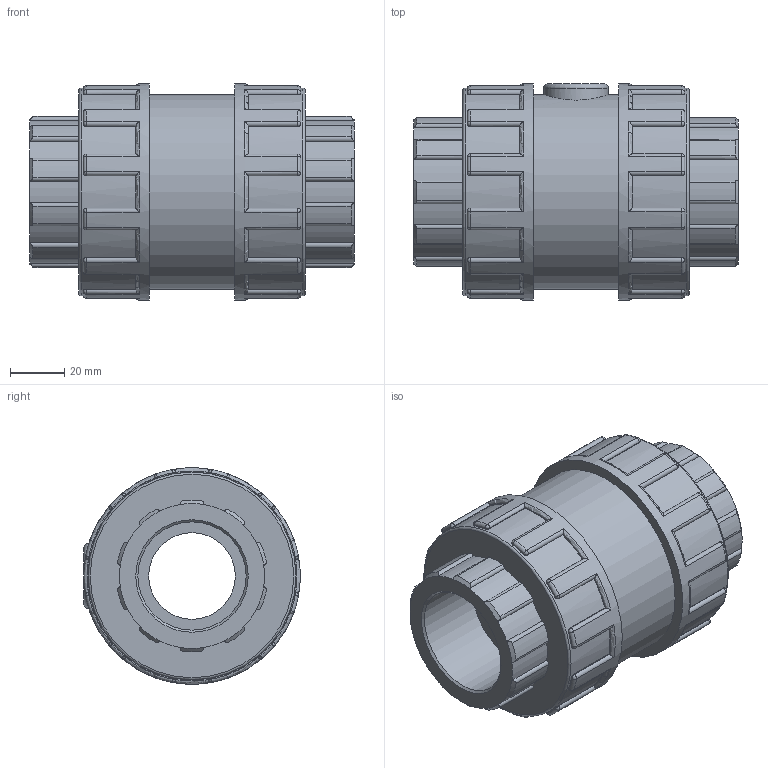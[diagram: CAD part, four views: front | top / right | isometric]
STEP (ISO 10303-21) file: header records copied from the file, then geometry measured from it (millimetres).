
FILE_DESCRIPTION(/* description */ ('PLASSON FOOT VALVE CEM PVC 40'),/* implementation_level */ '2;1');
FILE_NAME(/* name */ 'C:\Dropbox\KIMPROJECTS-Inventor\99-16-3568-Processing\PVC Catalog 2017\116400 - 116000\116400040.ipt.stp',/* time_stamp */ '2017-12-07T16:14:08+02:00',/* author */ ('KIM'),/* organization */ (''),/* preprocessor_version */ 'ST-DEVELOPER v15.6',/* originating_system */ 'Autodesk Inventor 2015',/* authorisation */ '');
FILE_SCHEMA (('AUTOMOTIVE_DESIGN { 1 0 10303 214 3 1 1 }'));
Length unit declared in the file: millimetre
Products named in the file (1): 116400040
Bounding box: 120 x 80 x 80 mm (x, y, z)
Volume: 346683.5 mm3; surface area: 51088.6 mm2
Topology: 1 solids, 1 shells, 411 faces, 1021 edges, 618 vertices
Faces by surface type: cylinder 185, plane 105, torus 51, sphere 48, cone 22
Full cylindrical faces by diameter (mm): 24 x1, 32 x1, 40 x2, 72 x1, 76.8 x2, 80 x2
Entity records: 13378 total; most frequent: CARTESIAN_POINT 3599, DIRECTION 2180, ORIENTED_EDGE 1998, EDGE_CURVE 999, AXIS2_PLACEMENT_3D 906, VERTEX_POINT 611, CIRCLE 494, EDGE_LOOP 434
